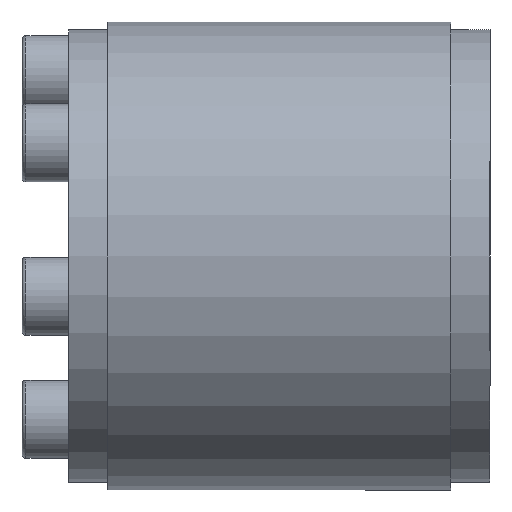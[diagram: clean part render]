
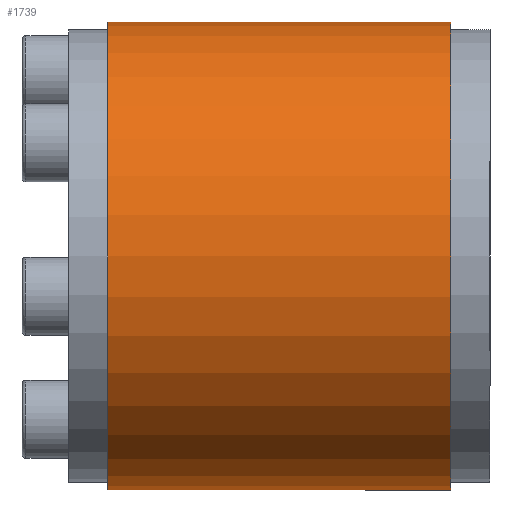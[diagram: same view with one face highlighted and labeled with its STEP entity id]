
A CAD part, left-side view. The second image highlights one B-rep face of the part: STEP entity #1739.
In plain terms, the highlighted cylindrical face has radius 30 mm (diameter 60 mm), a partial arc.
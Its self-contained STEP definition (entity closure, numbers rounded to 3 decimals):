
#9 = AXIS2_PLACEMENT_3D ( 'NONE', #2283, #1874, #2505 ) ;
#178 = VERTEX_POINT ( 'NONE', #1480 ) ;
#246 = CARTESIAN_POINT ( 'NONE',  ( 0., 22., -30. ) ) ;
#309 = ORIENTED_EDGE ( 'NONE', *, *, #346, .F. ) ;
#346 = EDGE_CURVE ( 'NONE', #1540, #178, #2594, .T. ) ;
#636 = EDGE_CURVE ( 'NONE', #178, #2558, #2560, .T. ) ;
#701 = ORIENTED_EDGE ( 'NONE', *, *, #636, .F. ) ;
#702 = ORIENTED_EDGE ( 'NONE', *, *, #1031, .T. ) ;
#728 = EDGE_CURVE ( 'NONE', #1540, #1928, #2330, .T. ) ;
#774 = DIRECTION ( 'NONE',  ( 0., -1., 0. ) ) ;
#817 = CARTESIAN_POINT ( 'NONE',  ( 0., 22., 0. ) ) ;
#917 = DIRECTION ( 'NONE',  ( 0., -1., 0. ) ) ;
#943 = CARTESIAN_POINT ( 'NONE',  ( 0., 0., -30. ) ) ;
#1002 = CARTESIAN_POINT ( 'NONE',  ( 0., -22., 0. ) ) ;
#1021 = VECTOR ( 'NONE', #917, 1000. ) ;
#1031 = EDGE_CURVE ( 'NONE', #1928, #2558, #1899, .T. ) ;
#1286 = DIRECTION ( 'NONE',  ( 0., -1., 0. ) ) ;
#1306 = VECTOR ( 'NONE', #1959, 1000. ) ;
#1411 = CARTESIAN_POINT ( 'NONE',  ( 0., 22., 30. ) ) ;
#1480 = CARTESIAN_POINT ( 'NONE',  ( 0., -22., 30. ) ) ;
#1540 = VERTEX_POINT ( 'NONE', #1411 ) ;
#1637 = EDGE_LOOP ( 'NONE', ( #309, #1806, #702, #701 ) ) ;
#1667 = DIRECTION ( 'NONE',  ( 0., 0., -1. ) ) ;
#1695 = DIRECTION ( 'NONE',  ( 0., 0., -1. ) ) ;
#1739 = ADVANCED_FACE ( 'NONE', ( #2661 ), #1895, .T. ) ;
#1750 = CARTESIAN_POINT ( 'NONE',  ( 0., 0., 30. ) ) ;
#1806 = ORIENTED_EDGE ( 'NONE', *, *, #728, .T. ) ;
#1813 = AXIS2_PLACEMENT_3D ( 'NONE', #1002, #774, #1667 ) ;
#1874 = DIRECTION ( 'NONE',  ( 0., -1., 0. ) ) ;
#1895 = CYLINDRICAL_SURFACE ( 'NONE', #9, 30. ) ;
#1899 = LINE ( 'NONE', #943, #1021 ) ;
#1923 = CARTESIAN_POINT ( 'NONE',  ( 0., -22., -30. ) ) ;
#1928 = VERTEX_POINT ( 'NONE', #246 ) ;
#1959 = DIRECTION ( 'NONE',  ( 0., -1., 0. ) ) ;
#2230 = AXIS2_PLACEMENT_3D ( 'NONE', #817, #1286, #1695 ) ;
#2283 = CARTESIAN_POINT ( 'NONE',  ( 0., 0., 0. ) ) ;
#2330 = CIRCLE ( 'NONE', #2230, 30. ) ;
#2505 = DIRECTION ( 'NONE',  ( 0., 0., -1. ) ) ;
#2558 = VERTEX_POINT ( 'NONE', #1923 ) ;
#2560 = CIRCLE ( 'NONE', #1813, 30. ) ;
#2594 = LINE ( 'NONE', #1750, #1306 ) ;
#2661 = FACE_OUTER_BOUND ( 'NONE', #1637, .T. ) ;
